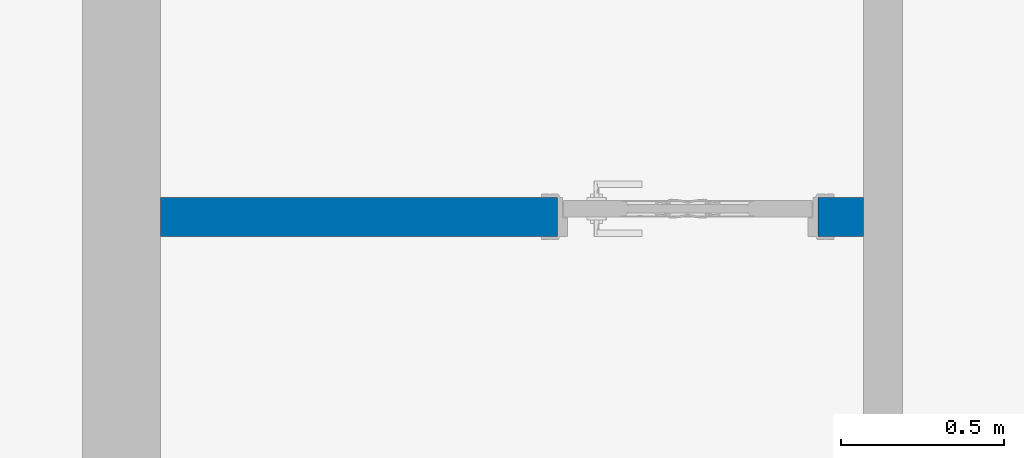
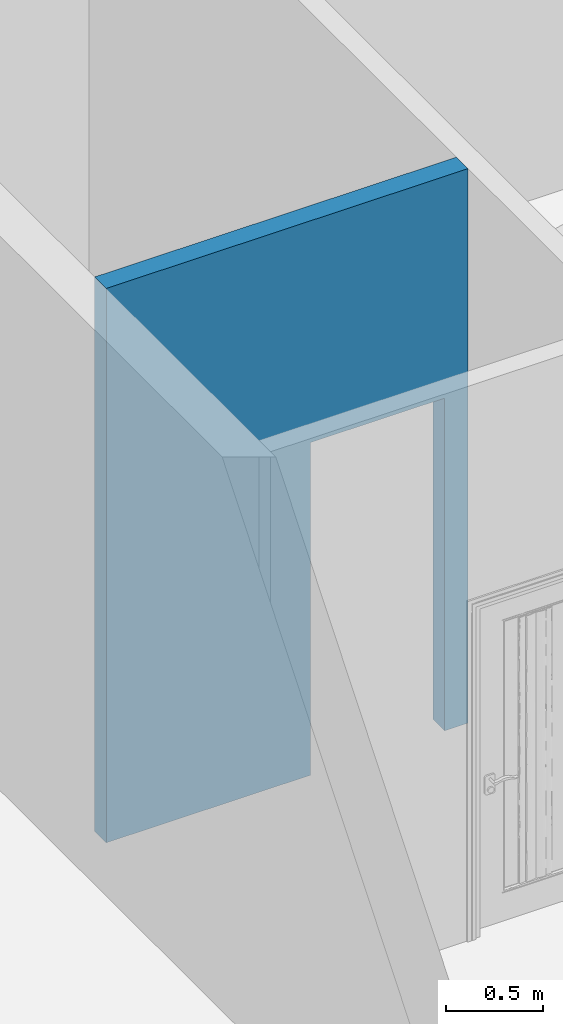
# One storey, part 11 of 24: 1 wall, 1 opening.
"""IFC2X3 building model written with IfcOpenShell, lengths in millimetres."""

from ifc_helpers import new_model, entity, si_unit, converted_unit, derived_unit, direction, frame, frame_2d, origin, place, context, subcontext, project, spatial, rectangle, extrude, material, layer, layer_set, layer_usage, type_object, element, save


model = new_model("IFC2X3")

# Units and contexts
model_context = context("Model", 3, precision=0.01, world=origin(), true_north=direction((6.12303176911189e-17, 1.0)))
body_context = subcontext(model_context, "Body", "Model", "MODEL_VIEW")
ifc_project = project(units=[si_unit("LENGTHUNIT", "METRE", prefix="MILLI"), si_unit("AREAUNIT", "SQUARE_METRE"), si_unit("VOLUMEUNIT", "CUBIC_METRE"), converted_unit("PLANEANGLEUNIT", "DEGREE", entity("IfcRatioMeasure", 0.0174532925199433), si_unit("PLANEANGLEUNIT", "RADIAN"), dimensions=[0, 0, 0, 0, 0, 0, 0]), si_unit("MASSUNIT", "GRAM", prefix="KILO"), derived_unit("MASSDENSITYUNIT", [(si_unit("MASSUNIT", "GRAM", prefix="KILO"), 1), (si_unit("LENGTHUNIT", "METRE"), -3)]), si_unit("TIMEUNIT", "SECOND"), si_unit("FREQUENCYUNIT", "HERTZ"), si_unit("THERMODYNAMICTEMPERATUREUNIT", "DEGREE_CELSIUS"), derived_unit("THERMALTRANSMITTANCEUNIT", [(si_unit("MASSUNIT", "GRAM", prefix="KILO"), 1), (si_unit("THERMODYNAMICTEMPERATUREUNIT", "KELVIN"), -1), (si_unit("TIMEUNIT", "SECOND"), -3)]), derived_unit("VOLUMETRICFLOWRATEUNIT", [(si_unit("LENGTHUNIT", "METRE"), 3), (si_unit("TIMEUNIT", "SECOND"), -1)]), si_unit("ELECTRICCURRENTUNIT", "AMPERE"), si_unit("ELECTRICVOLTAGEUNIT", "VOLT"), si_unit("POWERUNIT", "WATT"), si_unit("FORCEUNIT", "NEWTON", prefix="KILO"), si_unit("ILLUMINANCEUNIT", "LUX"), si_unit("LUMINOUSFLUXUNIT", "LUMEN"), si_unit("LUMINOUSINTENSITYUNIT", "CANDELA"), derived_unit("USERDEFINED", [(si_unit("MASSUNIT", "GRAM", prefix="KILO"), -1), (si_unit("LENGTHUNIT", "METRE"), -2), (si_unit("TIMEUNIT", "SECOND"), 3), (si_unit("LUMINOUSFLUXUNIT", "LUMEN"), 1)]), derived_unit("LINEARVELOCITYUNIT", [(si_unit("LENGTHUNIT", "METRE"), 1), (si_unit("TIMEUNIT", "SECOND"), -1)]), si_unit("PRESSUREUNIT", "PASCAL"), derived_unit("USERDEFINED", [(si_unit("LENGTHUNIT", "METRE"), -2), (si_unit("MASSUNIT", "GRAM", prefix="KILO"), 1), (si_unit("TIMEUNIT", "SECOND"), -2)])], contexts=[model_context])

# Site, building, storey
site_placement = place(None, origin())
site = spatial("IfcSite", under=ifc_project, at=site_placement, Name="表面", CompositionType="ELEMENT")
building_placement = place(site_placement, origin())
building = spatial("IfcBuilding", under=site, at=building_placement, CompositionType="ELEMENT")
storey_placement = place(building_placement, frame((0.0, 0.0, -3500.0)))
storey = spatial("IfcBuildingStorey", under=building, at=storey_placement, Name="-1F", CompositionType="ELEMENT", Elevation=-3500.0)

# Wall, opening
ifc_material_1 = material(Name="白色涂料")
ifc_layer_1 = layer(ifc_material_1, 10.0)
ifc_material_2 = material(Name="默认墙")
ifc_layer_2 = layer(ifc_material_2, 100.0)
ifc_layer_3 = layer(ifc_material_1, 10.0)
ifc_layer_set = layer_set([ifc_layer_1, ifc_layer_2, ifc_layer_3], Name="基本墙:粉刷墙120")
ifc_layer_usage = layer_usage(ifc_layer_set, "AXIS2", "NEGATIVE", 60.0)
wall_type = type_object("IfcWallType", Name="基本墙:粉刷墙120", PredefinedType="STANDARD", material=ifc_layer_set)
wall_placement = place(storey_placement, frame((-1790.24991264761, -3487.84591297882, 0.0)))
wall = element("IfcWallStandardCase", 1, at=wall_placement, inside=storey, type_object=wall_type, material=ifc_layer_usage, Name="基本墙:粉刷墙120", ObjectType="基本墙:粉刷墙120", context=body_context, shape_type="SweptSolid", body=[
    extrude(rectangle(XDim=2160.0, YDim=120.0, at=frame_2d((1080.0, -2.1316282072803e-14), x_axis=(-1.0, 0.0))), origin(), (0.0, 0.0, 1.0), 3500.0),
])
opening_placement = place(wall_placement, frame((1220.0, -60.0, 0.0)))
element("IfcOpeningElement", 2, at=opening_placement, cuts=wall, Name="装饰木门:M0821:1", ObjectType="Opening", context=body_context, shape_type="SweptSolid", body=[
    extrude(rectangle(XDim=2099.99999999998, YDim=800.0, at=frame_2d((1049.99999999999, 400.0), x_axis=(1.0, 0.0))), frame((0.0, 0.0, 0.0), z_axis=(0.0, 1.0, 0.0), x_axis=(0.0, 0.0, 1.0)), (0.0, 0.0, 1.0), 120.0),
])

save(model, "model.ifc")
